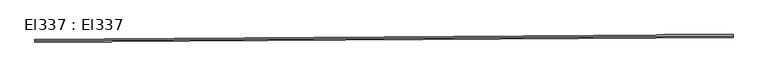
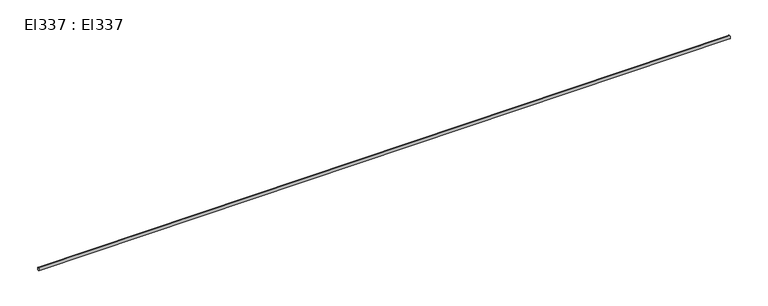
"""IFC4 building model written with IfcOpenShell, lengths in millimetres: cable carrier segment geometry, El337 : El337."""

from ifc_helpers import new_model, si_unit, point, frame, frame_2d, origin, place, context, project, spatial, circle_curve, trimmed, segment, composite_curve, outline, extrude, source, transform, mapped, element, save


def el337_el337_4efd9798(model_context):
    return source(origin(), model_context, "Body", "SweptSolid", [
        extrude(outline(composite_curve([segment(trimmed(circle_curve(frame_2d((0.0, -9.5)), 9.5), [point((0.0, -19.0))], [point((0.0, 0.0))], False, "CARTESIAN"), True, "CONTINUOUS"), segment(trimmed(circle_curve(frame_2d((0.0, -9.5)), 9.5), [point((0.0, 0.0))], [point((0.0, -19.0))], False, "CARTESIAN"), True, "CONTINUOUS")], self_intersect=False)), frame((28206.6637976, 7745.4736876, 9.5), z_axis=(0.9999763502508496, 0.0068774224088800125, 0.0), x_axis=(-0.0068774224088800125, 0.9999763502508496, 0.0)), (0.0, 0.0, 1.0), 4811.79),
    ])


if __name__ == "__main__":
    model = new_model("IFC4")
    model_context = context("Model", 3, world=origin())
    ifc_project = project(units=[si_unit("LENGTHUNIT", "METRE", prefix="MILLI")], contexts=[model_context])
    site = spatial("IfcSite", under=ifc_project)
    building = spatial("IfcBuilding", under=site)
    placement = place(None, origin())
    el337_el337_shape = el337_el337_4efd9798(model_context)
    element("IfcCableCarrierSegment", 1, ObjectType="El337 : El337", at=placement, inside=building, context=model_context, shape_type="MappedRepresentation", body=[
        mapped(el337_el337_shape, transform((0.0, 0.0, 0.0), x_axis=(1.0, 0.0, 0.0), y_axis=(0.0, 1.0, 0.0), z_axis=(0.0, 0.0, 1.0))),
    ])
    save(model, "model.ifc")
